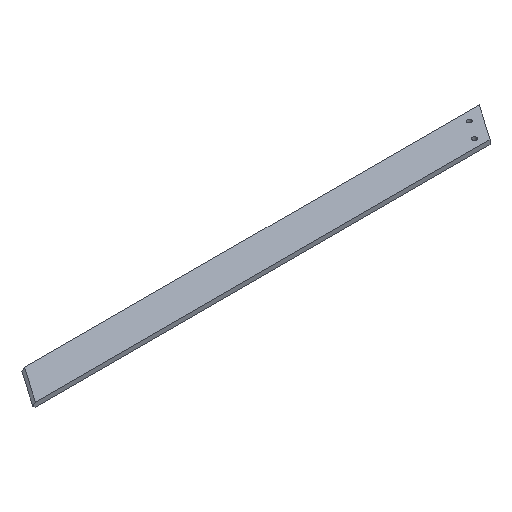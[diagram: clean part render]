
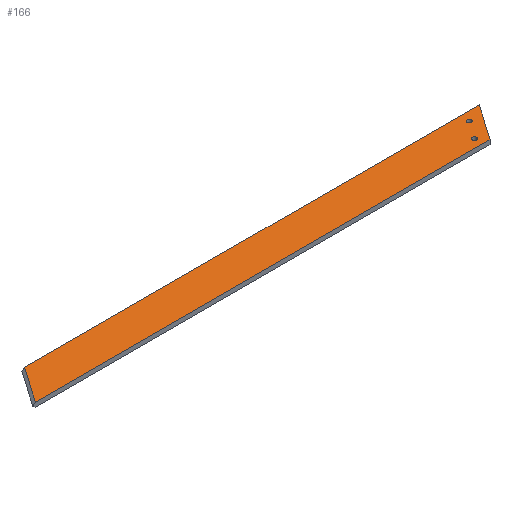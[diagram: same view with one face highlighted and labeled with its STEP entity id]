
A CAD part, isometric view. The second image highlights one B-rep face of the part: STEP entity #166.
In plain terms, the highlighted planar face has unit normal (0, 0, 1).
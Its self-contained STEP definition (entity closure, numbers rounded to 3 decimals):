
#6 = VERTEX_POINT ( 'NONE', #182 ) ;
#7 = VERTEX_POINT ( 'NONE', #178 ) ;
#9 = ORIENTED_EDGE ( 'NONE', *, *, #340, .T. ) ;
#13 = ORIENTED_EDGE ( 'NONE', *, *, #320, .T. ) ;
#15 = ORIENTED_EDGE ( 'NONE', *, *, #337, .T. ) ;
#16 = ORIENTED_EDGE ( 'NONE', *, *, #349, .T. ) ;
#18 = VERTEX_POINT ( 'NONE', #179 ) ;
#19 = ORIENTED_EDGE ( 'NONE', *, *, #377, .T. ) ;
#35 = VERTEX_POINT ( 'NONE', #185 ) ;
#37 = VERTEX_POINT ( 'NONE', #192 ) ;
#41 = VERTEX_POINT ( 'NONE', #177 ) ;
#42 = ORIENTED_EDGE ( 'NONE', *, *, #330, .T. ) ;
#46 = ORIENTED_EDGE ( 'NONE', *, *, #332, .T. ) ;
#47 = ORIENTED_EDGE ( 'NONE', *, *, #327, .F. ) ;
#69 = VERTEX_POINT ( 'NONE', #187 ) ;
#70 = VERTEX_POINT ( 'NONE', #193 ) ;
#75 = EDGE_LOOP ( 'NONE', ( #47, #9, #46, #13 ) ) ;
#81 = VECTOR ( 'NONE', #227, 1000. ) ;
#82 = FACE_BOUND ( 'NONE', #83, .T. ) ;
#83 = EDGE_LOOP ( 'NONE', ( #42, #15 ) ) ;
#88 = FACE_BOUND ( 'NONE', #90, .T. ) ;
#90 = EDGE_LOOP ( 'NONE', ( #16, #19 ) ) ;
#102 = FACE_OUTER_BOUND ( 'NONE', #75, .T. ) ;
#107 = LINE ( 'NONE', #215, #81 ) ;
#118 = LINE ( 'NONE', #253, #135 ) ;
#122 = CIRCLE ( 'NONE', #351, 1. ) ;
#127 = VECTOR ( 'NONE', #268, 1000. ) ;
#130 = CIRCLE ( 'NONE', #348, 1. ) ;
#133 = LINE ( 'NONE', #216, #148 ) ;
#135 = VECTOR ( 'NONE', #265, 1000. ) ;
#136 = CIRCLE ( 'NONE', #374, 1. ) ;
#137 = CIRCLE ( 'NONE', #361, 1. ) ;
#148 = VECTOR ( 'NONE', #209, 1000. ) ;
#157 = LINE ( 'NONE', #271, #127 ) ;
#166 = ADVANCED_FACE ( 'NONE', ( #102, #88, #82 ), #203, .F. ) ;
#177 = CARTESIAN_POINT ( 'NONE',  ( 17.26, -6.491, 2. ) ) ;
#178 = CARTESIAN_POINT ( 'NONE',  ( 19.383, -10.491, 2. ) ) ;
#179 = CARTESIAN_POINT ( 'NONE',  ( -189.92, -10.491, 2. ) ) ;
#181 = CARTESIAN_POINT ( 'NONE',  ( 0., 0., 2. ) ) ;
#182 = CARTESIAN_POINT ( 'NONE',  ( 30.843, 5.892, 2. ) ) ;
#185 = CARTESIAN_POINT ( 'NONE',  ( -178.448, 5.892, 2. ) ) ;
#187 = CARTESIAN_POINT ( 'NONE',  ( 21.058, 1.657, 2. ) ) ;
#192 = CARTESIAN_POINT ( 'NONE',  ( 23.058, 1.657, 2. ) ) ;
#193 = CARTESIAN_POINT ( 'NONE',  ( 15.26, -6.491, 2. ) ) ;
#203 = PLANE ( 'NONE',  #353 ) ;
#205 = DIRECTION ( 'NONE',  ( 0., 0., -1. ) ) ;
#206 = DIRECTION ( 'NONE',  ( -1., 0., 0. ) ) ;
#209 = DIRECTION ( 'NONE',  ( -0.573, -0.819, 0. ) ) ;
#215 = CARTESIAN_POINT ( 'NONE',  ( -192.606, -10.491, 2. ) ) ;
#216 = CARTESIAN_POINT ( 'NONE',  ( 30.843, 5.892, 2. ) ) ;
#227 = DIRECTION ( 'NONE',  ( 1., 0., 0. ) ) ;
#251 = CARTESIAN_POINT ( 'NONE',  ( 16.26, -6.491, 2. ) ) ;
#253 = CARTESIAN_POINT ( 'NONE',  ( -181.134, 5.892, 2. ) ) ;
#255 = DIRECTION ( 'NONE',  ( -1., 0., 0. ) ) ;
#264 = CARTESIAN_POINT ( 'NONE',  ( 16.26, -6.491, 2. ) ) ;
#265 = DIRECTION ( 'NONE',  ( -1., 0., 0. ) ) ;
#268 = DIRECTION ( 'NONE',  ( -0.574, -0.819, 0. ) ) ;
#271 = CARTESIAN_POINT ( 'NONE',  ( -122.509, 85.782, 2. ) ) ;
#280 = DIRECTION ( 'NONE',  ( 0., 0., -1. ) ) ;
#283 = DIRECTION ( 'NONE',  ( 0., 0., -1. ) ) ;
#285 = CARTESIAN_POINT ( 'NONE',  ( 22.058, 1.657, 2. ) ) ;
#288 = DIRECTION ( 'NONE',  ( -1., 0., 0. ) ) ;
#289 = DIRECTION ( 'NONE',  ( -1., 0., 0. ) ) ;
#290 = DIRECTION ( 'NONE',  ( 0., 0., -1. ) ) ;
#303 = DIRECTION ( 'NONE',  ( -1., 0., 0. ) ) ;
#309 = DIRECTION ( 'NONE',  ( 0., 0., -1. ) ) ;
#314 = CARTESIAN_POINT ( 'NONE',  ( 22.058, 1.657, 2. ) ) ;
#320 = EDGE_CURVE ( 'NONE', #18, #7, #107, .T. ) ;
#327 = EDGE_CURVE ( 'NONE', #6, #7, #133, .T. ) ;
#330 = EDGE_CURVE ( 'NONE', #70, #41, #130, .T. ) ;
#332 = EDGE_CURVE ( 'NONE', #35, #18, #157, .T. ) ;
#337 = EDGE_CURVE ( 'NONE', #41, #70, #137, .T. ) ;
#340 = EDGE_CURVE ( 'NONE', #6, #35, #118, .T. ) ;
#348 = AXIS2_PLACEMENT_3D ( 'NONE', #251, #290, #255 ) ;
#349 = EDGE_CURVE ( 'NONE', #69, #37, #122, .T. ) ;
#351 = AXIS2_PLACEMENT_3D ( 'NONE', #285, #280, #289 ) ;
#353 = AXIS2_PLACEMENT_3D ( 'NONE', #181, #205, #206 ) ;
#361 = AXIS2_PLACEMENT_3D ( 'NONE', #264, #283, #288 ) ;
#374 = AXIS2_PLACEMENT_3D ( 'NONE', #314, #309, #303 ) ;
#377 = EDGE_CURVE ( 'NONE', #37, #69, #136, .T. ) ;
